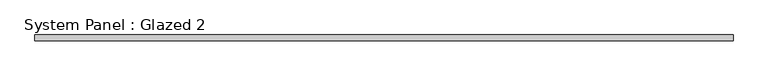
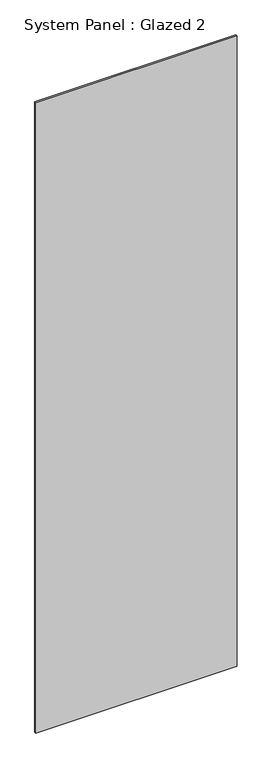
"""IFC4 building model written with IfcOpenShell, lengths in millimetres: plate geometry, System Panel : Glazed 2."""

from ifc_helpers import new_model, si_unit, origin, origin_with_axes, place, context, project, spatial, polyline, outline, extrude, source, transform, mapped, element, save


def system_panel_glazed_2_725f9dae(model_context):
    return source(origin(), model_context, "Body", "SweptSolid", [
        extrude(outline(polyline([(785.0, -6.35), (-785.0, -6.35), (-785.0, 6.35), (785.0, 6.35), (785.0, -6.35)])), origin_with_axes(), (0.0, 0.0, 1.0), 5198.580519),
    ])


if __name__ == "__main__":
    model = new_model("IFC4")
    model_context = context("Model", 3, world=origin())
    ifc_project = project(units=[si_unit("LENGTHUNIT", "METRE", prefix="MILLI")], contexts=[model_context])
    site = spatial("IfcSite", under=ifc_project)
    building = spatial("IfcBuilding", under=site)
    placement = place(None, origin())
    system_panel_glazed_2_shape = system_panel_glazed_2_725f9dae(model_context)
    element("IfcPlate", 1, ObjectType="System Panel : Glazed 2", at=placement, inside=building, context=model_context, shape_type="MappedRepresentation", body=[
        mapped(system_panel_glazed_2_shape, transform((0.0, 0.0, 0.0), x_axis=(1.0, 0.0, 0.0), y_axis=(0.0, 1.0, 0.0), z_axis=(0.0, 0.0, 1.0))),
    ])
    save(model, "model.ifc")
